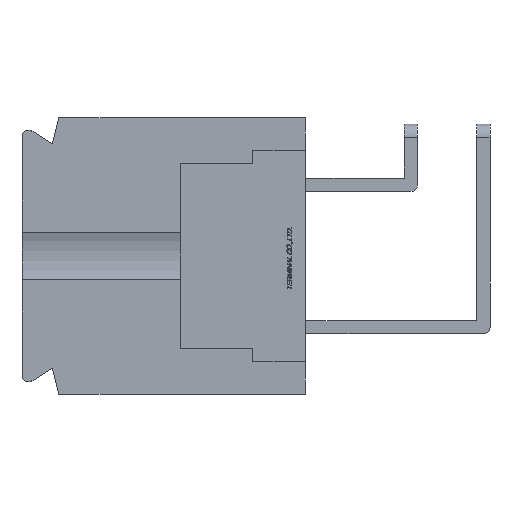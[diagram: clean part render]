
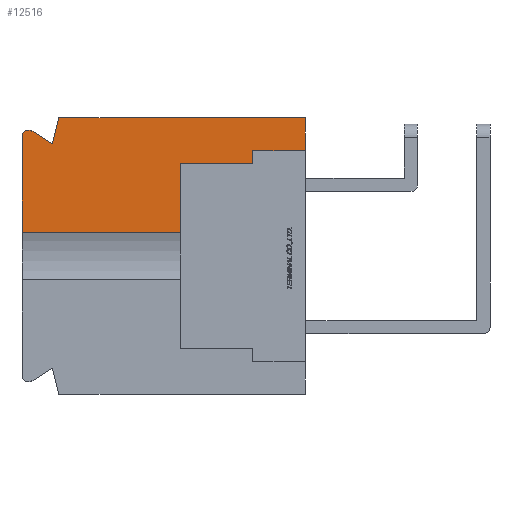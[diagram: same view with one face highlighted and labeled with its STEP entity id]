
A CAD part, left-side view. The second image highlights one B-rep face of the part: STEP entity #12516.
In plain terms, the highlighted planar face has unit normal (-1, 0, 0).
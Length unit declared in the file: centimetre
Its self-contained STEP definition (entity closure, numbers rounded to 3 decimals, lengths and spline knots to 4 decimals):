
#493=CIRCLE('',#21275,0.05);
#771=VECTOR('',#13982,1.);
#772=VECTOR('',#13983,1.);
#773=VECTOR('',#13984,1.);
#774=VECTOR('',#13985,1.);
#775=VECTOR('',#13986,1.);
#776=VECTOR('',#13987,1.);
#777=VECTOR('',#13988,1.);
#778=VECTOR('',#13989,1.);
#779=VECTOR('',#13992,1.);
#780=VECTOR('',#13993,1.);
#2284=LINE('',#16617,#771);
#2285=LINE('',#16620,#772);
#2286=LINE('',#16622,#773);
#2287=LINE('',#16624,#774);
#2288=LINE('',#16626,#775);
#2289=LINE('',#16628,#776);
#2290=LINE('',#16630,#777);
#2291=LINE('',#16632,#778);
#2292=LINE('',#16636,#779);
#2293=LINE('',#16638,#780);
#3810=VERTEX_POINT('',#16618);
#3811=VERTEX_POINT('',#16619);
#3812=VERTEX_POINT('',#16621);
#3813=VERTEX_POINT('',#16623);
#3814=VERTEX_POINT('',#16625);
#3815=VERTEX_POINT('',#16627);
#3816=VERTEX_POINT('',#16629);
#3817=VERTEX_POINT('',#16631);
#3818=VERTEX_POINT('',#16633);
#3819=VERTEX_POINT('',#16635);
#3820=VERTEX_POINT('',#16637);
#5187=EDGE_CURVE('',#3810,#3811,#2284,.T.);
#5188=EDGE_CURVE('',#3812,#3810,#2285,.T.);
#5189=EDGE_CURVE('',#3813,#3812,#2286,.T.);
#5190=EDGE_CURVE('',#3814,#3813,#2287,.T.);
#5191=EDGE_CURVE('',#3815,#3814,#2288,.T.);
#5192=EDGE_CURVE('',#3816,#3815,#2289,.T.);
#5193=EDGE_CURVE('',#3817,#3816,#2290,.T.);
#5194=EDGE_CURVE('',#3818,#3817,#2291,.T.);
#5195=EDGE_CURVE('',#3819,#3818,#493,.T.);
#5196=EDGE_CURVE('',#3820,#3819,#2292,.T.);
#5197=EDGE_CURVE('',#3820,#3811,#2293,.T.);
#7229=ORIENTED_EDGE('',*,*,#5187,.F.);
#7230=ORIENTED_EDGE('',*,*,#5188,.F.);
#7231=ORIENTED_EDGE('',*,*,#5189,.F.);
#7232=ORIENTED_EDGE('',*,*,#5190,.F.);
#7233=ORIENTED_EDGE('',*,*,#5191,.F.);
#7234=ORIENTED_EDGE('',*,*,#5192,.F.);
#7235=ORIENTED_EDGE('',*,*,#5193,.F.);
#7236=ORIENTED_EDGE('',*,*,#5194,.F.);
#7237=ORIENTED_EDGE('',*,*,#5195,.F.);
#7238=ORIENTED_EDGE('',*,*,#5196,.F.);
#7239=ORIENTED_EDGE('',*,*,#5197,.T.);
#10930=EDGE_LOOP('',(#7229,#7230,#7231,#7232,#7233,#7234,#7235,#7236,#7237,
#7238,#7239));
#11728=FACE_BOUND('',#10930,.T.);
#12516=ADVANCED_FACE('',(#11728),#13234,.F.);
#13234=PLANE('',#21274);
#13981=DIRECTION('',(1.,0.,0.));
#13982=DIRECTION('',(0.,0.,-1.));
#13983=DIRECTION('',(0.,1.,0.));
#13984=DIRECTION('',(0.,0.,-1.));
#13985=DIRECTION('',(0.,1.,0.));
#13986=DIRECTION('',(0.,0.,-1.));
#13987=DIRECTION('',(0.,-1.,0.));
#13988=DIRECTION('',(0.,-0.243,0.97));
#13989=DIRECTION('',(0.,-0.844,-0.536));
#13990=DIRECTION('',(1.,0.,0.));
#13991=DIRECTION('',(0.,0.,-0.05));
#13992=DIRECTION('',(0.,0.,1.));
#13993=DIRECTION('',(0.,-1.,0.));
#16616=CARTESIAN_POINT('',(-1.1,1.082,0.));
#16617=CARTESIAN_POINT('',(-1.1,0.95,-0.7));
#16618=CARTESIAN_POINT('',(-1.1,0.95,0.7));
#16619=CARTESIAN_POINT('',(-1.1,0.95,0.1809));
#16620=CARTESIAN_POINT('',(-1.1,0.95,0.7));
#16621=CARTESIAN_POINT('',(-1.1,0.4,0.7));
#16622=CARTESIAN_POINT('',(-1.1,0.4,0.7));
#16623=CARTESIAN_POINT('',(-1.1,0.4,0.8));
#16624=CARTESIAN_POINT('',(-1.1,0.4,0.8));
#16625=CARTESIAN_POINT('',(-1.1,0.,0.8));
#16626=CARTESIAN_POINT('',(-1.1,0.,1.05));
#16627=CARTESIAN_POINT('',(-1.1,0.,1.05));
#16628=CARTESIAN_POINT('',(-1.1,1.87,1.05));
#16629=CARTESIAN_POINT('',(-1.1,1.87,1.05));
#16630=CARTESIAN_POINT('',(-1.1,1.92,0.85));
#16631=CARTESIAN_POINT('',(-1.1,1.92,0.85));
#16632=CARTESIAN_POINT('',(-1.1,2.0742,0.9478));
#16633=CARTESIAN_POINT('',(-1.1,2.0742,0.9478));
#16634=CARTESIAN_POINT('',(-1.1,2.1,0.905));
#16635=CARTESIAN_POINT('',(-1.1,2.15,0.905));
#16636=CARTESIAN_POINT('',(-1.1,2.15,-0.905));
#16637=CARTESIAN_POINT('',(-1.1,2.15,0.1809));
#16638=CARTESIAN_POINT('',(-1.1,1.55,0.1809));
#21274=AXIS2_PLACEMENT_3D('',#16616,#13981,$);
#21275=AXIS2_PLACEMENT_3D('',#16634,#13990,#13991);
